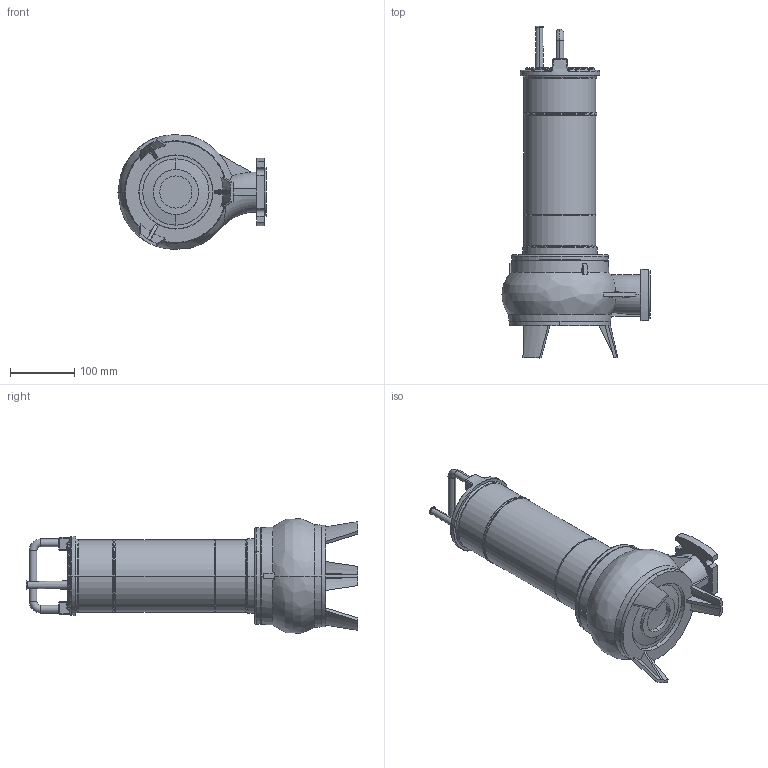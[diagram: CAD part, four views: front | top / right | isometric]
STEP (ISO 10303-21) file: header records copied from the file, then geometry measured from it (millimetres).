
FILE_DESCRIPTION (( 'STEP AP203' ), '1' );
FILE_NAME ('50FWS_09-11_flanged.STEP', '2026-06-08T12:17:51', ( '' ), ( '' ), 'SwSTEP 2.0', 'SolidWorks 2024', '' );
FILE_SCHEMA (( 'CONFIG_CONTROL_DESIGN' ));
Length unit declared in the file: millimetre
Products named in the file (1): 50FWS_09-11_flanged
Bounding box: 229.99 x 515.7 x 178.18 mm (x, y, z)
Volume: 5491736.4 mm3; surface area: 259478.8 mm2
Topology: 1 solids, 2 shells, 381 faces, 936 edges, 571 vertices
Faces by surface type: plane 143, cylinder 75, bspline 58, torus 48, cone 45, sphere 12
Entity records: 14872 total; most frequent: CARTESIAN_POINT 6323, ORIENTED_EDGE 1848, DIRECTION 1646, EDGE_CURVE 924, AXIS2_PLACEMENT_3D 628, VERTEX_POINT 571, EDGE_LOOP 409, LINE 390
